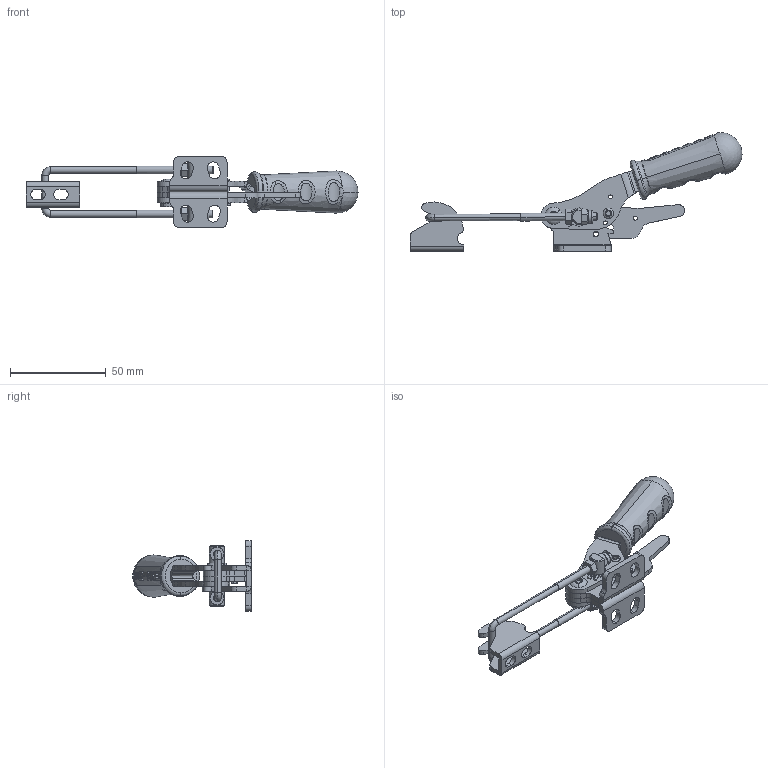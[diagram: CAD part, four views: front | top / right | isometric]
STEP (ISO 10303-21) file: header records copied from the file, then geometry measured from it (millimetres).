
FILE_DESCRIPTION (( 'STEP AP203' ), '1' );
FILE_NAME ('13004_Y_K.STEP', '2022-11-29T13:09:39', ( '' ), ( '' ), 'SwSTEP 2.0', 'SolidWorks 2023', '' );
FILE_SCHEMA (( 'CONFIG_CONTROL_DESIGN' ));
Length unit declared in the file: millimetre
Products named in the file (17): Ø4x15_P(PERÇİN)_Varsayılan; Pim_6x14_5_u kanca_Varsayılan; 07210-04; Kanca mili_Varsayılan; 13004 kilt_Varsayılan; Aynalamaautolock_nut_h_fr_nf_e_25-409_m4_6_1; 3-8-1330128; C60_Tutamak_Varsayılan; Aynalamagövde sol,_Varsayılan; KANCA_Varsayılan; 13004 y h kolu yeni_Varsayılan; circlips_o8-uni_7435; M4 U Kanca_Varsayılan; autolock_nut_h_fr_nf_e_25-409_m4_6_1; Aynalama13004 y h kolu yeni_Varsayılan; 13004_Y_K; gövde solkukamet,_Varsayılan
Assembly tree (18 placements, depth 2):
  13004_Y_K
    gövde solkukamet,_Varsayılan
    KANCA_Varsayılan
    Kanca mili_Varsayılan
    M4 U Kanca_Varsayılan
    Pim_6x14_5_u kanca_Varsayılan
    Aynalamagövde sol,_Varsayılan
    13004 y h kolu yeni_Varsayılan
    Aynalama13004 y h kolu yeni_Varsayılan
    07210-04  x2
    autolock_nut_h_fr_nf_e_25-409_m4_6_1
    circlips_o8-uni_7435  x2
    3-8-1330128
    Aynalamaautolock_nut_h_fr_nf_e_25-409_m4_6_1
    C60_Tutamak_Varsayılan
    13004 kilt_Varsayılan
    Ø4x15_P(PERÇİN)_Varsayılan
Bounding box: 173.57 x 61.98 x 37 mm (x, y, z)
Volume: 34319.3 mm3; surface area: 26437.9 mm2
Topology: 18 solids, 18 shells, 689 faces, 1725 edges, 1090 vertices
Faces by surface type: plane 332, cylinder 243, cone 60, torus 32, bspline 20, sphere 2
Entity records: 23841 total; most frequent: CARTESIAN_POINT 6578, ORIENTED_EDGE 3232, DIRECTION 3200, EDGE_CURVE 1616, AXIS2_PLACEMENT_3D 1207, VERTEX_POINT 1023, VECTOR 786, LINE 786
